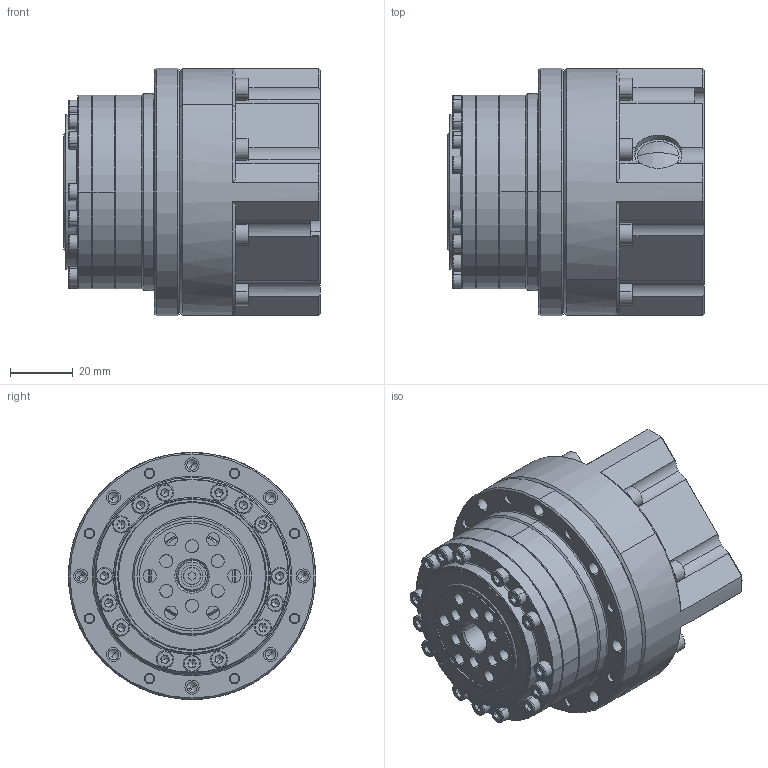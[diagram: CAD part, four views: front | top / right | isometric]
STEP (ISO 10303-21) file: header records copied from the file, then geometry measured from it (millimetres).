
FILE_DESCRIPTION (( 'STEP AP203' ), '1' );
FILE_NAME ('LCSG-17-XXX-RDB-11-30-50-70-M4.STEP', '2024-05-14T01:25:44', ( '' ), ( '' ), 'SwSTEP 2.0', 'SolidWorks 2020', '' );
FILE_SCHEMA (( 'CONFIG_CONTROL_DESIGN' ));
Length unit declared in the file: millimetre
Products named in the file (30): socket head cap screw_din_________________M3 x 10.STEP; ______________M2 x 4_ISO 7046-1 - M2 x 4 - Z --- 4N.STEP; LCSG-17-XXX-C-I(C-0); TBP06_25-轴用反向挡圈-怡合达; RZC-17G______+____.STEP; LCSG-17-XXX-P03-I.STEP; TBP16_42-孔用反向挡圈-怡合达; 尼龙扣式塞头，开孔10mm（淘宝）; socket head cap screw_din_________________M5 x 16.STEP; LCSG-17-XXX-P02-I.STEP; GB／T70．1-2000内六角圆柱头螺钉M5×16(12．9级); LCSG-17-XXX-P05-RDF 菜え; LCSG-17-XXX-C-I(C-0).STEP; LCSG-17-XXX-P05-I.STEP; LCSG-17-XXX-RDB-11-30-50-70-M4; LCSG-17-XXX-P06A-RDB 蛌諉粣; DB-17G-I.STEP; GB／T70．1-2000内六角圆柱头螺钉M4×25(12．9级); RZC-17______.STEP; 15Z-38475.STEP; GB／T1096-1979普通平键C型3×10(45钢); LCSG-17-XXX-P01-I.STEP; ________RZC-17G.STEP; GB／T276-94深沟球轴承61905-2RZ(GCr4); socket head cap screw_din_________________M3 x 16.STEP; GB／T70．1-2000内六角圆柱头螺钉M3×6(12．9级); ________17G-I.STEP; LHSG-17-XXX-P19-RDR  標踡杶; LCSG-17-XXX-P04-I.STEP; LCSG-17-XXX-P07A-RDB 萇儂蟀諉楊擘
Assembly tree (57 placements, depth 6):
  LCSG-17-XXX-RDB-11-30-50-70-M4
    LCSG-17-XXX-C-I(C-0)
      LCSG-17-XXX-C-I(C-0).STEP
        ________17G-I.STEP
          ________RZC-17G.STEP
            RZC-17G______+____.STEP
            RZC-17______.STEP
          LCSG-17-XXX-P03-I.STEP
          DB-17G-I.STEP
        LCSG-17-XXX-P01-I.STEP
        LCSG-17-XXX-P02-I.STEP
        LCSG-17-XXX-P04-I.STEP
        15Z-38475.STEP
        socket head cap screw_din_________________M3 x 10.STEP  x5
        socket head cap screw_din_________________M3 x 16.STEP  x10
        LCSG-17-XXX-P05-I.STEP
        socket head cap screw_din_________________M5 x 16.STEP  x6
        ______________M2 x 4_ISO 7046-1 - M2 x 4 - Z --- 4N.STEP  x4
    GB／T276-94深沟球轴承61905-2RZ(GCr4)
    LCSG-17-XXX-P06A-RDB 蛌諉粣
    LCSG-17-XXX-P07A-RDB 萇儂蟀諉楊擘
    TBP06_25-轴用反向挡圈-怡合达
    TBP16_42-孔用反向挡圈-怡合达
    GB／T1096-1979普通平键C型3×10(45钢)
    LCSG-17-XXX-P05-RDF 菜え
    GB／T70．1-2000内六角圆柱头螺钉M3×6(12．9级)
    GB／T70．1-2000内六角圆柱头螺钉M4×25(12．9级)  x8
    LHSG-17-XXX-P19-RDR  標踡杶
    尼龙扣式塞头，开孔10mm（淘宝）
    GB／T70．1-2000内六角圆柱头螺钉M5×16(12．9级)
Bounding box: 82 x 79 x 79 mm (x, y, z)
Volume: 226747.5 mm3; surface area: 120576.3 mm2
Topology: 78 solids, 78 shells, 2166 faces, 5308 edges, 3225 vertices
Faces by surface type: plane 756, cylinder 652, cone 320, torus 240, sphere 198
Entity records: 50242 total; most frequent: CARTESIAN_POINT 11179, DIRECTION 7971, ORIENTED_EDGE 6992, EDGE_CURVE 3496, AXIS2_PLACEMENT_3D 3421, VERTEX_POINT 2241, CIRCLE 1940, EDGE_LOOP 1723
